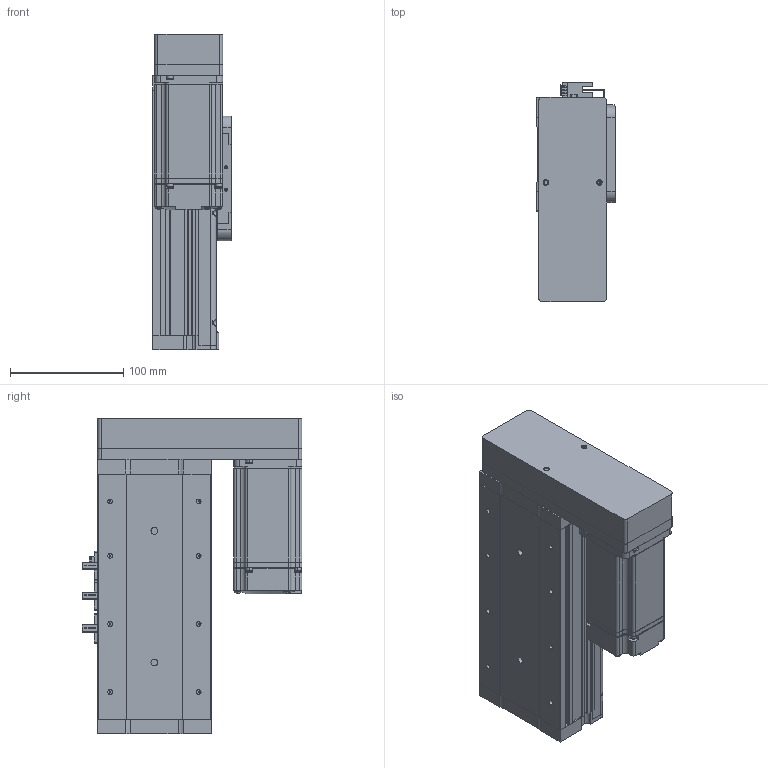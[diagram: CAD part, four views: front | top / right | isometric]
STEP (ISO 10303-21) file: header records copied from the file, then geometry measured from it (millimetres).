
FILE_DESCRIPTION (( 'STEP AP214' ), '1' );
FILE_NAME ('KSD100S-S50-MR-CR.STEP', '2019-09-03T00:55:18', ( '微软用户' ), ( '微软中国' ), 'SwSTEP 2.0', 'SolidWorks 2014', '' );
FILE_SCHEMA (( 'AUTOMOTIVE_DESIGN' ));
Length unit declared in the file: millimetre
Products named in the file (14): U倰嫖萇EEㄜSX672; 悵誘欶酘衵殏; 100宽马达安装板连板左右折丝杆; 感应片100宽全封闭; 100宽马达安装板全封闭; 100宽端板全封闭; 100宽滚珠螺姆安装板1防护罩; 100宽滚珠螺姆安装板1; 100遵裔啣揤啣; 100遵裔啣50俴最; 100遵耜啣50俴最佪裝; 100宽底板全封闭50行程丝杆; KSD100S-S50-MR-CR; MHMD042G1CA_2_03
Assembly tree (17 placements, depth 2):
  KSD100S-S50-MR-CR
    100宽底板全封闭50行程丝杆
    100遵耜啣50俴最佪裝  x2
    100遵裔啣50俴最
    100遵裔啣揤啣  x2
    100宽滚珠螺姆安装板1
    100宽滚珠螺姆安装板1防护罩
    100宽端板全封闭
    100宽马达安装板全封闭
    感应片100宽全封闭
    100宽马达安装板连板左右折丝杆
    悵誘欶酘衵殏
    U倰嫖萇EEㄜSX672  x3
    MHMD042G1CA_2_03
Bounding box: 70 x 193.7 x 278.5 mm (x, y, z)
Volume: 737179.6 mm3; surface area: 370966.8 mm2
Topology: 16 solids, 17 shells, 1521 faces, 4238 edges, 2738 vertices
Faces by surface type: plane 695, cylinder 639, cone 169, bspline 18
Entity records: 50492 total; most frequent: CARTESIAN_POINT 7848, DIRECTION 7209, ORIENTED_EDGE 6712, EDGE_CURVE 3428, AXIS2_PLACEMENT_3D 2547, VERTEX_POINT 2276, VECTOR 2115, LINE 2115
